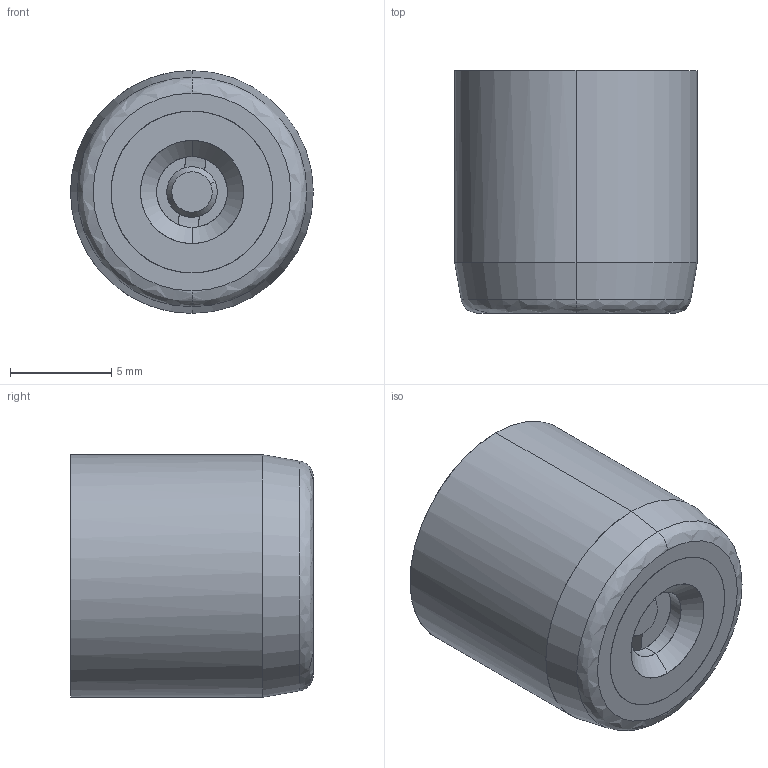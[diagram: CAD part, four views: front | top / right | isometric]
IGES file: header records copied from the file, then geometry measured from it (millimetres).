
Start section: START RECORD GO HERE.
Global section: file name: va121012.igs; native system: DASSAULT SYSTEMES CATIA V5 R20 - www.3ds.com; preprocessor: CATIA Version 5 Release 20 ; author: Utente; organization: NB04-ASUS; date: 20201107.140655; units: millimetre
Bounding box: 12 x 12 x 12 mm (x, y, z)
Surface area: 1623.4 mm2 (no closed solid volume)
Topology: 0 solids, 0 shells, 164 faces, 736 edges, 735 vertices
Faces by surface type: bspline 80, revolution 56, plane 28
